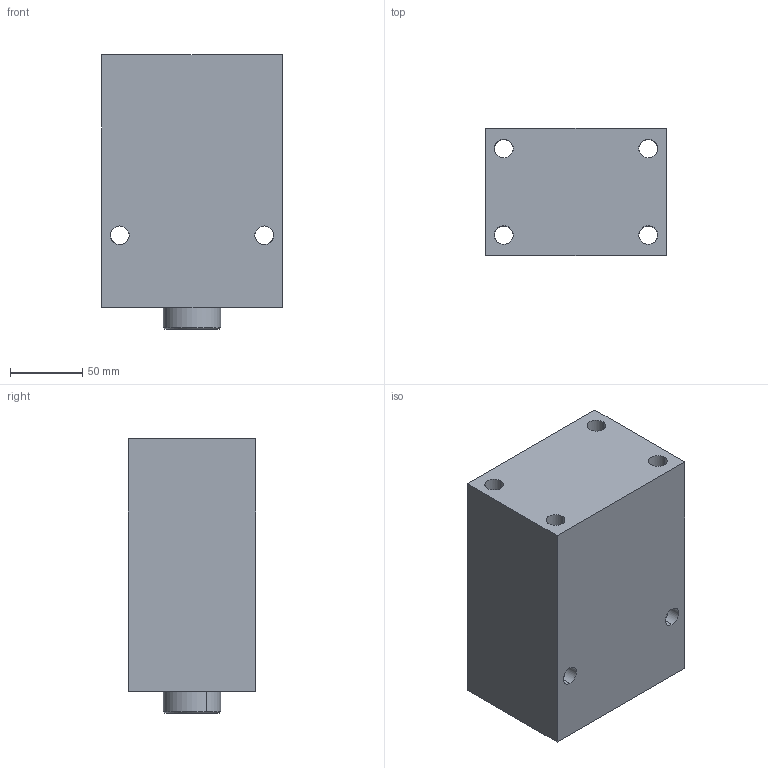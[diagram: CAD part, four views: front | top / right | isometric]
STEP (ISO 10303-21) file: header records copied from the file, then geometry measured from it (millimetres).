
FILE_DESCRIPTION (( 'STEP AP203' ), '1' );
FILE_NAME ('Block cylinder B01C-6100F.STEP', '2022-07-09T18:33:21', ( '' ), ( '' ), 'SwSTEP 2.0', 'SolidWorks 2017', '' );
FILE_SCHEMA (( 'CONFIG_CONTROL_DESIGN' ));
Length unit declared in the file: millimetre
Products named in the file (3): Block cylinder B01C-6100F; Body_ 6100F_50ST; Piston _ 6100F
Assembly tree (2 placements, depth 2):
  Block cylinder B01C-6100F
    Body_ 6100F_50ST
    Piston _ 6100F
Bounding box: 125 x 88 x 190 mm (x, y, z)
Volume: 1990723.5 mm3; surface area: 161751.9 mm2
Topology: 2 solids, 2 shells, 341 faces, 928 edges, 605 vertices
Faces by surface type: bspline 154, plane 135, cylinder 44, cone 8
Entity records: 17299 total; most frequent: CARTESIAN_POINT 9499, ORIENTED_EDGE 1844, DIRECTION 1024, EDGE_CURVE 922, VERTEX_POINT 605, LINE 524, VECTOR 524, EDGE_LOOP 381
